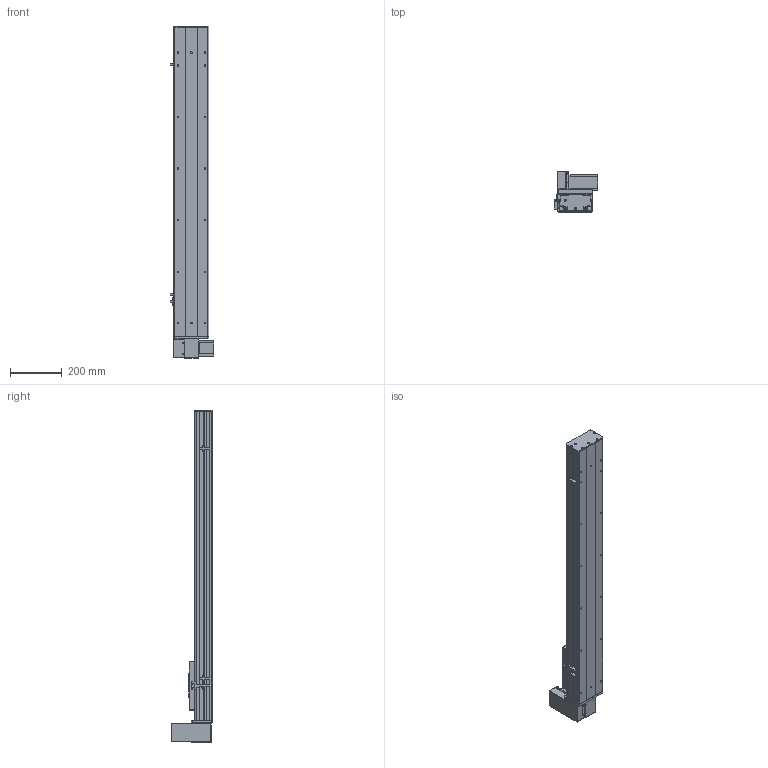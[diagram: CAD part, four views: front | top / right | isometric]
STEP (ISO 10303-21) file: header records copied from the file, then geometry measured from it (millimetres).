
FILE_DESCRIPTION (( 'STEP AP203' ), '1' );
FILE_NAME ('Y135CB-D90-S900-UR-P400W.STEP', '2020-02-18T04:02:37', ( '微软用户' ), ( '微软中国' ), 'SwSTEP 2.0', 'SolidWorks 2017', '' );
FILE_SCHEMA (( 'CONFIG_CONTROL_DESIGN' ));
Length unit declared in the file: millimetre
Products named in the file (18): 5C--俋欶; 0B-源倛裔啣; C-雄赽釱--; 0B-萇儂楊擘啣; Y10B--々湍喘謫眊--666; san松下电机400不带刹车----; Y10B-耜蚾蟀諉啣----; 5CB --掛极耜裔啣-; 00B-俋欶BM--; C-詩湍揤踡え-陔; Y135CB-耜裔; Y135CB-D90-S900-UR-P400W; 135CB--詩湍-CE; 135CB---遴掛极.-; Y100-135俋离換覜ん--; 35CB---喘謫眊楊擘啣; Y135C-陔俋离換覜結え-; 0B-埴倛裔啣
Assembly tree (21 placements, depth 2):
  Y135CB-D90-S900-UR-P400W
    Y135CB-耜裔
    135CB---遴掛极.-
    35CB---喘謫眊楊擘啣
    0B-埴倛裔啣
    0B-源倛裔啣
    0B-萇儂楊擘啣
    san松下电机400不带刹车----
    5CB --掛极耜裔啣-  x2
    C-詩湍揤踡え-陔  x2
    135CB--詩湍-CE
    Y100-135俋离換覜ん--  x3
    Y135C-陔俋离換覜結え-
    5C--俋欶
    C-雄赽釱--
    Y10B--々湍喘謫眊--666
    Y10B-耜蚾蟀諉啣----
    00B-俋欶BM--
Bounding box: 167.5 x 158.7 x 1288 mm (x, y, z)
Volume: 4126647.7 mm3; surface area: 1612019.6 mm2
Topology: 21 solids, 21 shells, 945 faces, 2527 edges, 1674 vertices
Faces by surface type: cylinder 473, plane 456, cone 16
Entity records: 29349 total; most frequent: DIRECTION 4875, CARTESIAN_POINT 4812, ORIENTED_EDGE 4530, EDGE_CURVE 2265, AXIS2_PLACEMENT_3D 1777, VERTEX_POINT 1502, VECTOR 1321, LINE 1321
